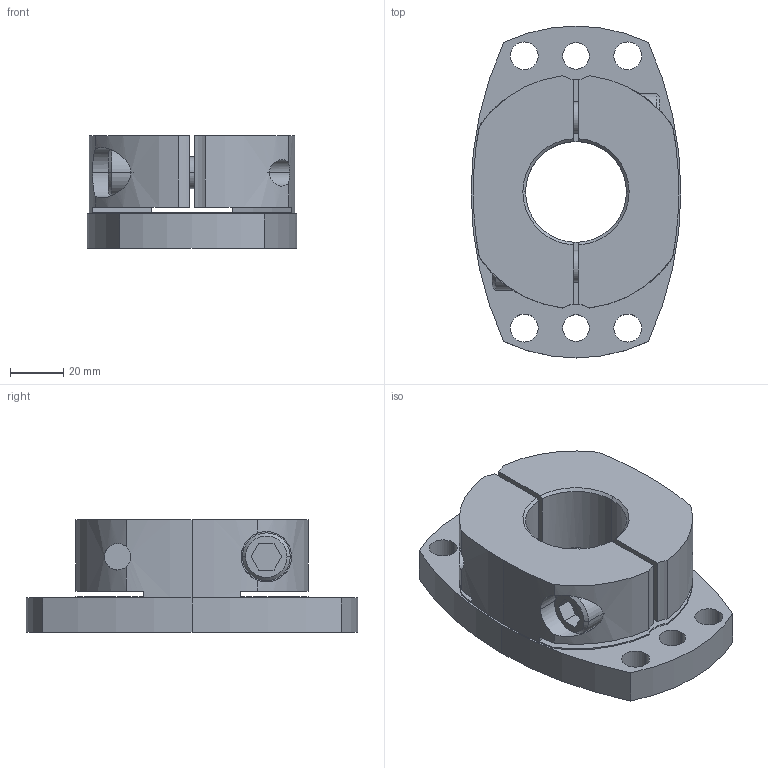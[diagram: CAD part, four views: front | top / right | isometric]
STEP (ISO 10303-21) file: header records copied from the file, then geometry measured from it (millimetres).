
FILE_DESCRIPTION((''),'2;1');
FILE_NAME('SHDB-125B-38.stp','2026-01-28T08:48:59',(''),(''),'AutoCAD STEP 2000i','AutoCAD 2000i',', , ');
FILE_SCHEMA(('CONFIG_CONTROL_DESIGN'));
Length unit declared in the file: millimetre
Products named in the file (2): SHDB-125B-25; 忣兜1
Assembly tree (1 placements, depth 2):
  SHDB-125B-25
    忣兜1
Bounding box: 79 x 125 x 42.5 mm (x, y, z)
Volume: 209365.1 mm3; surface area: 46141.2 mm2
Topology: 1 solids, 1 shells, 102 faces, 280 edges, 184 vertices
Faces by surface type: cylinder 58, plane 34, cone 10
Entity records: 3699 total; most frequent: CARTESIAN_POINT 872, DIRECTION 602, ORIENTED_EDGE 560, EDGE_CURVE 280, AXIS2_PLACEMENT_3D 238, VERTEX_POINT 184, CIRCLE 134, VECTOR 126
